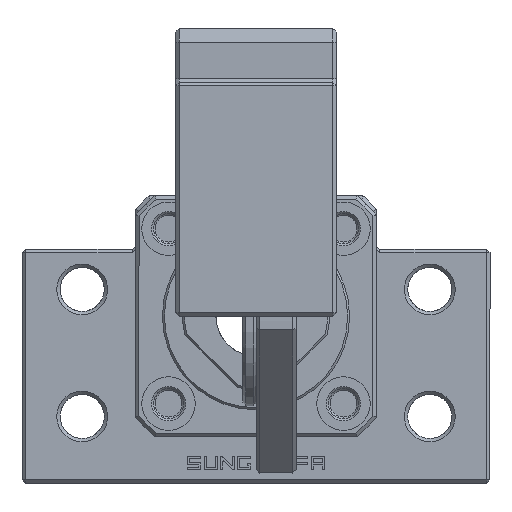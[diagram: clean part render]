
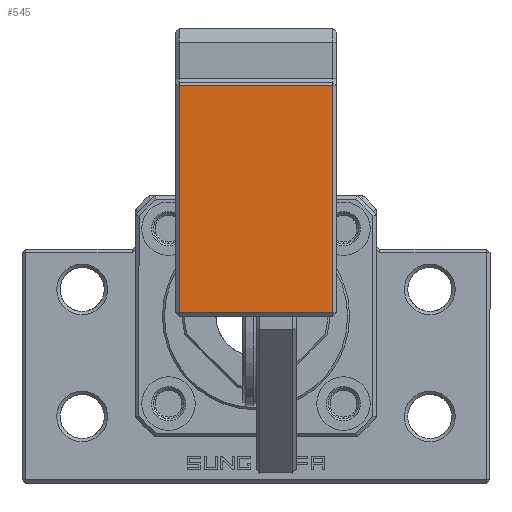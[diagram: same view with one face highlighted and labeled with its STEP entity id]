
A CAD part, left-side view. The second image highlights one B-rep face of the part: STEP entity #545.
In plain terms, the highlighted planar face has unit normal (-1, 0, 0).
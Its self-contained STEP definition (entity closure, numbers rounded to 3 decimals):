
#545 = ADVANCED_FACE( '', ( #1376 ), #1377, .T. );
#1376 = FACE_OUTER_BOUND( '', #2949, .T. );
#1377 = PLANE( '', #2950 );
#2949 = EDGE_LOOP( '', ( #4896, #4897, #4898, #4899 ) );
#2950 = AXIS2_PLACEMENT_3D( '', #4900, #4901, #4902 );
#4896 = ORIENTED_EDGE( '', *, *, #10059, .T. );
#4897 = ORIENTED_EDGE( '', *, *, #10060, .T. );
#4898 = ORIENTED_EDGE( '', *, *, #10061, .T. );
#4899 = ORIENTED_EDGE( '', *, *, #10062, .T. );
#4900 = CARTESIAN_POINT( '', ( -35., -12., 0. ) );
#4901 = DIRECTION( '', ( -1., 0., 0. ) );
#4902 = DIRECTION( '', ( 0., 0., 1. ) );
#10059 = EDGE_CURVE( '', #11993, #11994, #11995, .T. );
#10060 = EDGE_CURVE( '', #11994, #11996, #11997, .T. );
#10061 = EDGE_CURVE( '', #11996, #11998, #11999, .T. );
#10062 = EDGE_CURVE( '', #11998, #11993, #12000, .T. );
#11993 = VERTEX_POINT( '', #15107 );
#11994 = VERTEX_POINT( '', #15108 );
#11995 = LINE( '', #15109, #15110 );
#11996 = VERTEX_POINT( '', #15111 );
#11997 = LINE( '', #15112, #15113 );
#11998 = VERTEX_POINT( '', #15114 );
#11999 = LINE( '', #15115, #15116 );
#12000 = LINE( '', #15117, #15118 );
#15107 = CARTESIAN_POINT( '', ( -35., -11.5, 34.5 ) );
#15108 = CARTESIAN_POINT( '', ( -35., 11.5, 34.5 ) );
#15109 = CARTESIAN_POINT( '', ( -35., -12., 34.5 ) );
#15110 = VECTOR( '', #19479, 1000. );
#15111 = CARTESIAN_POINT( '', ( -35., 11.5, 0.5 ) );
#15112 = CARTESIAN_POINT( '', ( -35., 11.5, 0. ) );
#15113 = VECTOR( '', #19480, 1000. );
#15114 = CARTESIAN_POINT( '', ( -35., -11.5, 0.5 ) );
#15115 = CARTESIAN_POINT( '', ( -35., -12., 0.5 ) );
#15116 = VECTOR( '', #19481, 1000. );
#15117 = CARTESIAN_POINT( '', ( -35., -11.5, 0. ) );
#15118 = VECTOR( '', #19482, 1000. );
#19479 = DIRECTION( '', ( 0., 1., 0. ) );
#19480 = DIRECTION( '', ( 0., 0., -1. ) );
#19481 = DIRECTION( '', ( 0., -1., 0. ) );
#19482 = DIRECTION( '', ( 0., 0., 1. ) );
